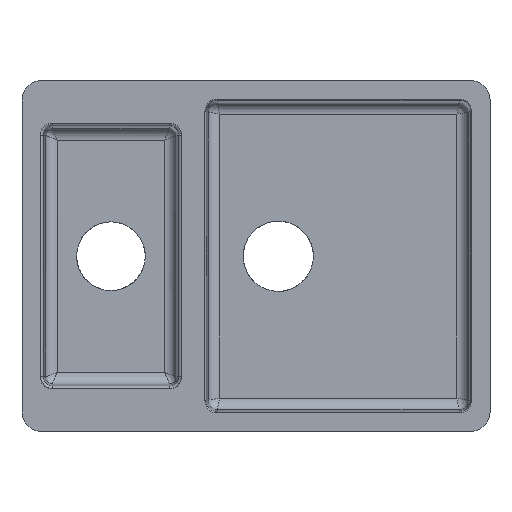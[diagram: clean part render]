
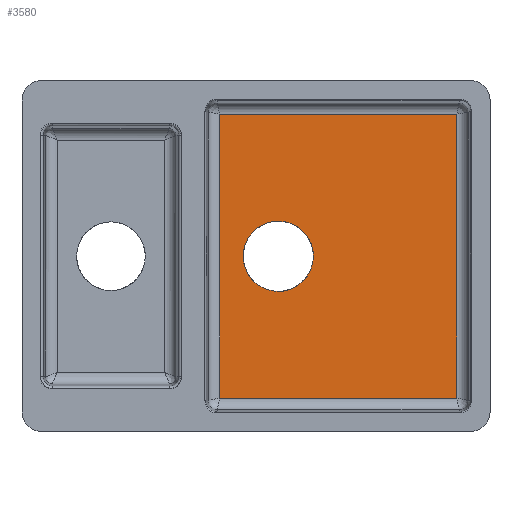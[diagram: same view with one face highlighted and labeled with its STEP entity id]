
A CAD part, top view. The second image highlights one B-rep face of the part: STEP entity #3580.
In plain terms, the highlighted planar face has unit normal (0, 0, 1).
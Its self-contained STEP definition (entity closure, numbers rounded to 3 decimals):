
#1259=CARTESIAN_POINT('Vertex',(-46.448,181.949,-193.5)) ;
#1307=CARTESIAN_POINT('Vertex',(-46.448,-181.949,-193.5)) ;
#1310=CARTESIAN_POINT('Line Origine',(-46.448,0.,-193.5)) ;
#3202=CARTESIAN_POINT('Vertex',(257.451,-181.949,-193.5)) ;
#3205=CARTESIAN_POINT('Line Origine',(105.501,-181.949,-193.5)) ;
#3237=CARTESIAN_POINT('Vertex',(257.451,181.949,-193.5)) ;
#3240=CARTESIAN_POINT('Line Origine',(257.451,0.,-193.5)) ;
#3506=CARTESIAN_POINT('Axis2P3D Location',(275.551,185.,-193.5)) ;
#3511=CARTESIAN_POINT('Line Origine',(275.551,181.949,-193.5)) ;
#3523=CARTESIAN_POINT('Control Point',(-16.446,0.,-193.5)) ;
#3524=CARTESIAN_POINT('Control Point',(-16.446,7.069,-193.5)) ;
#3525=CARTESIAN_POINT('Control Point',(-15.058,14.137,-193.5)) ;
#3526=CARTESIAN_POINT('Control Point',(-12.281,20.842,-193.5)) ;
#3527=CARTESIAN_POINT('Control Point',(-4.247,32.801,-193.5)) ;
#3528=CARTESIAN_POINT('Control Point',(7.712,40.835,-193.5)) ;
#3529=CARTESIAN_POINT('Control Point',(14.417,43.612,-193.5)) ;
#3530=CARTESIAN_POINT('Control Point',(21.486,45.,-193.5)) ;
#3531=CARTESIAN_POINT('Control Point',(28.554,45.,-193.5)) ;
#3532=CARTESIAN_POINT('Vertex',(-16.446,0.,-193.5)) ;
#3534=CARTESIAN_POINT('Vertex',(28.554,45.,-193.5)) ;
#3538=CARTESIAN_POINT('Control Point',(28.554,45.,-193.5)) ;
#3539=CARTESIAN_POINT('Control Point',(35.623,45.,-193.5)) ;
#3540=CARTESIAN_POINT('Control Point',(42.691,43.612,-193.5)) ;
#3541=CARTESIAN_POINT('Control Point',(49.396,40.835,-193.5)) ;
#3542=CARTESIAN_POINT('Control Point',(61.356,32.801,-193.5)) ;
#3543=CARTESIAN_POINT('Control Point',(69.389,20.842,-193.5)) ;
#3544=CARTESIAN_POINT('Control Point',(72.166,14.137,-193.5)) ;
#3545=CARTESIAN_POINT('Control Point',(73.554,7.069,-193.5)) ;
#3546=CARTESIAN_POINT('Control Point',(73.554,0.,-193.5)) ;
#3547=CARTESIAN_POINT('Vertex',(73.554,0.,-193.5)) ;
#3551=CARTESIAN_POINT('Control Point',(73.554,0.,-193.5)) ;
#3552=CARTESIAN_POINT('Control Point',(73.554,-7.069,-193.5)) ;
#3553=CARTESIAN_POINT('Control Point',(72.166,-14.137,-193.5)) ;
#3554=CARTESIAN_POINT('Control Point',(69.389,-20.842,-193.5)) ;
#3555=CARTESIAN_POINT('Control Point',(61.356,-32.801,-193.5)) ;
#3556=CARTESIAN_POINT('Control Point',(49.396,-40.835,-193.5)) ;
#3557=CARTESIAN_POINT('Control Point',(42.691,-43.612,-193.5)) ;
#3558=CARTESIAN_POINT('Control Point',(35.623,-45.,-193.5)) ;
#3559=CARTESIAN_POINT('Control Point',(28.554,-45.,-193.5)) ;
#3560=CARTESIAN_POINT('Vertex',(28.554,-45.,-193.5)) ;
#3564=CARTESIAN_POINT('Control Point',(28.554,-45.,-193.5)) ;
#3565=CARTESIAN_POINT('Control Point',(21.486,-45.,-193.5)) ;
#3566=CARTESIAN_POINT('Control Point',(14.417,-43.612,-193.5)) ;
#3567=CARTESIAN_POINT('Control Point',(7.712,-40.835,-193.5)) ;
#3568=CARTESIAN_POINT('Control Point',(-4.247,-32.801,-193.5)) ;
#3569=CARTESIAN_POINT('Control Point',(-12.281,-20.842,-193.5)) ;
#3570=CARTESIAN_POINT('Control Point',(-15.058,-14.137,-193.5)) ;
#3571=CARTESIAN_POINT('Control Point',(-16.446,-7.069,-193.5)) ;
#3572=CARTESIAN_POINT('Control Point',(-16.446,0.,-193.5)) ;
#1311=DIRECTION('Vector Direction',(0.,-1.,0.)) ;
#3206=DIRECTION('Vector Direction',(1.,0.,0.)) ;
#3241=DIRECTION('Vector Direction',(0.,1.,0.)) ;
#3507=DIRECTION('Axis2P3D Direction',(0.,0.,-1.)) ;
#3508=DIRECTION('Axis2P3D XDirection',(1.,0.,0.)) ;
#3512=DIRECTION('Vector Direction',(1.,0.,0.)) ;
#3509=AXIS2_PLACEMENT_3D('Plane Axis2P3D',#3506,#3507,#3508) ;
#3517=ORIENTED_EDGE('',*,*,#3515,.F.) ;
#3518=ORIENTED_EDGE('',*,*,#1314,.F.) ;
#3519=ORIENTED_EDGE('',*,*,#3209,.F.) ;
#3520=ORIENTED_EDGE('',*,*,#3244,.F.) ;
#3575=ORIENTED_EDGE('',*,*,#3536,.T.) ;
#3576=ORIENTED_EDGE('',*,*,#3549,.T.) ;
#3577=ORIENTED_EDGE('',*,*,#3562,.T.) ;
#3578=ORIENTED_EDGE('',*,*,#3573,.T.) ;
#3579=FACE_BOUND('',#3574,.T.) ;
#1312=VECTOR('Line Direction',#1311,1.) ;
#3207=VECTOR('Line Direction',#3206,1.) ;
#3242=VECTOR('Line Direction',#3241,1.) ;
#3513=VECTOR('Line Direction',#3512,1.) ;
#3580=ADVANCED_FACE('Vasca TPF',(#3521,#3579),#3510,.F.) ;
#3522=B_SPLINE_CURVE_WITH_KNOTS('',5,(#3523,#3524,#3525,#3526,#3527,#3528,#3529,#3530,#3531),.UNSPECIFIED.,.F.,.U.,(6,3,6),(141.372,176.715,212.058),.UNSPECIFIED.) ;
#3537=B_SPLINE_CURVE_WITH_KNOTS('',5,(#3538,#3539,#3540,#3541,#3542,#3543,#3544,#3545,#3546),.UNSPECIFIED.,.F.,.U.,(6,3,6),(212.058,247.4,282.743),.UNSPECIFIED.) ;
#3550=B_SPLINE_CURVE_WITH_KNOTS('',5,(#3551,#3552,#3553,#3554,#3555,#3556,#3557,#3558,#3559),.UNSPECIFIED.,.F.,.U.,(6,3,6),(0.,35.343,70.686),.UNSPECIFIED.) ;
#3563=B_SPLINE_CURVE_WITH_KNOTS('',5,(#3564,#3565,#3566,#3567,#3568,#3569,#3570,#3571,#3572),.UNSPECIFIED.,.F.,.U.,(6,3,6),(70.686,106.029,141.372),.UNSPECIFIED.) ;
#1314=EDGE_CURVE('',#1308,#1260,#1313,.F.) ;
#3209=EDGE_CURVE('',#3203,#1308,#3208,.F.) ;
#3244=EDGE_CURVE('',#3238,#3203,#3243,.F.) ;
#3515=EDGE_CURVE('',#1260,#3238,#3514,.T.) ;
#3536=EDGE_CURVE('',#3533,#3535,#3522,.T.) ;
#3549=EDGE_CURVE('',#3535,#3548,#3537,.T.) ;
#3562=EDGE_CURVE('',#3548,#3561,#3550,.T.) ;
#3573=EDGE_CURVE('',#3561,#3533,#3563,.T.) ;
#3516=EDGE_LOOP('',(#3517,#3518,#3519,#3520)) ;
#3574=EDGE_LOOP('',(#3575,#3576,#3577,#3578)) ;
#3521=FACE_OUTER_BOUND('',#3516,.T.) ;
#1313=LINE('Line',#1310,#1312) ;
#3208=LINE('Line',#3205,#3207) ;
#3243=LINE('Line',#3240,#3242) ;
#3514=LINE('Line',#3511,#3513) ;
#3510=PLANE('',#3509) ;
#1260=VERTEX_POINT('',#1259) ;
#1308=VERTEX_POINT('',#1307) ;
#3203=VERTEX_POINT('',#3202) ;
#3238=VERTEX_POINT('',#3237) ;
#3533=VERTEX_POINT('',#3532) ;
#3535=VERTEX_POINT('',#3534) ;
#3548=VERTEX_POINT('',#3547) ;
#3561=VERTEX_POINT('',#3560) ;
